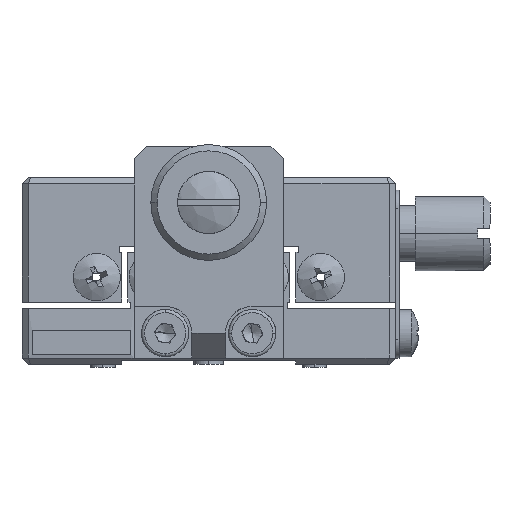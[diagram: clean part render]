
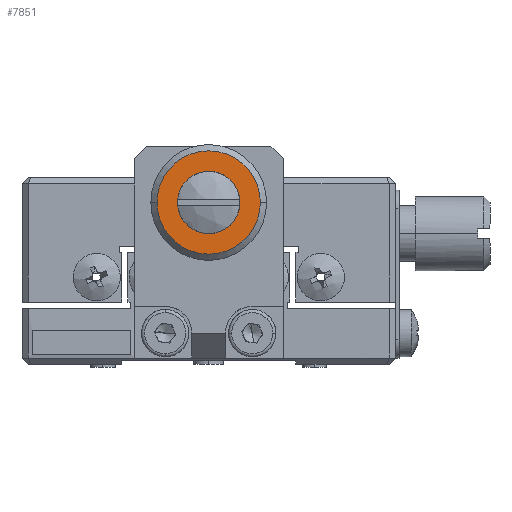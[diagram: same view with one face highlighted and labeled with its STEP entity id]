
A CAD part, left-side view. The second image highlights one B-rep face of the part: STEP entity #7851.
In plain terms, the highlighted planar face has unit normal (-1, 0, 0).
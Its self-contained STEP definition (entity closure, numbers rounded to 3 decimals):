
#914 = DIRECTION ( 'NONE',  ( 0., 1., 0. ) ) ;
#1805 = CARTESIAN_POINT ( 'NONE',  ( -85.487, -35., 10.2 ) ) ;
#2013 = CIRCLE ( 'NONE', #2342, 2.5 ) ;
#2077 = DIRECTION ( 'NONE',  ( 1., 0., 0. ) ) ;
#2173 = AXIS2_PLACEMENT_3D ( 'NONE', #3441, #12130, #8421 ) ;
#2342 = AXIS2_PLACEMENT_3D ( 'NONE', #7158, #9693, #8287 ) ;
#2461 = AXIS2_PLACEMENT_3D ( 'NONE', #15912, #2077, #914 ) ;
#3441 = CARTESIAN_POINT ( 'NONE',  ( -85.487, -35., 12.7 ) ) ;
#3595 = ORIENTED_EDGE ( 'NONE', *, *, #14517, .T. ) ;
#3633 = DIRECTION ( 'NONE',  ( 0., 0., 1. ) ) ;
#3738 = PLANE ( 'NONE',  #11654 ) ;
#3792 = CARTESIAN_POINT ( 'NONE',  ( -85.487, -39.233, 8.55 ) ) ;
#4080 = EDGE_LOOP ( 'NONE', ( #9435, #3595 ) ) ;
#5406 = AXIS2_PLACEMENT_3D ( 'NONE', #15082, #8860, #13860 ) ;
#7113 = FACE_OUTER_BOUND ( 'NONE', #10891, .T. ) ;
#7158 = CARTESIAN_POINT ( 'NONE',  ( -85.487, -35., 12.7 ) ) ;
#7849 = CIRCLE ( 'NONE', #2173, 2.5 ) ;
#7851 = ADVANCED_FACE ( 'NONE', ( #7113, #9821 ), #3738, .T. ) ;
#8184 = VERTEX_POINT ( 'NONE', #1805 ) ;
#8287 = DIRECTION ( 'NONE',  ( 0., 0., -1. ) ) ;
#8421 = DIRECTION ( 'NONE',  ( 0., 0., -1. ) ) ;
#8780 = VERTEX_POINT ( 'NONE', #15573 ) ;
#8860 = DIRECTION ( 'NONE',  ( 1., 0., 0. ) ) ;
#9435 = ORIENTED_EDGE ( 'NONE', *, *, #12705, .T. ) ;
#9693 = DIRECTION ( 'NONE',  ( 1., 0., 0. ) ) ;
#9821 = FACE_BOUND ( 'NONE', #4080, .T. ) ;
#10189 = CARTESIAN_POINT ( 'NONE',  ( -85.487, -35., 15.2 ) ) ;
#10415 = VERTEX_POINT ( 'NONE', #11638 ) ;
#10891 = EDGE_LOOP ( 'NONE', ( #15178, #11776 ) ) ;
#10938 = CIRCLE ( 'NONE', #5406, 4.15 ) ;
#11638 = CARTESIAN_POINT ( 'NONE',  ( -85.487, -30.85, 12.7 ) ) ;
#11654 = AXIS2_PLACEMENT_3D ( 'NONE', #3792, #14791, #3633 ) ;
#11776 = ORIENTED_EDGE ( 'NONE', *, *, #14263, .F. ) ;
#11799 = VERTEX_POINT ( 'NONE', #10189 ) ;
#12130 = DIRECTION ( 'NONE',  ( 1., 0., 0. ) ) ;
#12705 = EDGE_CURVE ( 'NONE', #8184, #11799, #2013, .T. ) ;
#13116 = EDGE_CURVE ( 'NONE', #10415, #8780, #14885, .T. ) ;
#13860 = DIRECTION ( 'NONE',  ( 0., 1., 0. ) ) ;
#14263 = EDGE_CURVE ( 'NONE', #8780, #10415, #10938, .T. ) ;
#14517 = EDGE_CURVE ( 'NONE', #11799, #8184, #7849, .T. ) ;
#14791 = DIRECTION ( 'NONE',  ( -1., 0., 0. ) ) ;
#14885 = CIRCLE ( 'NONE', #2461, 4.15 ) ;
#15082 = CARTESIAN_POINT ( 'NONE',  ( -85.487, -35., 12.7 ) ) ;
#15178 = ORIENTED_EDGE ( 'NONE', *, *, #13116, .F. ) ;
#15573 = CARTESIAN_POINT ( 'NONE',  ( -85.487, -39.15, 12.7 ) ) ;
#15912 = CARTESIAN_POINT ( 'NONE',  ( -85.487, -35., 12.7 ) ) ;
